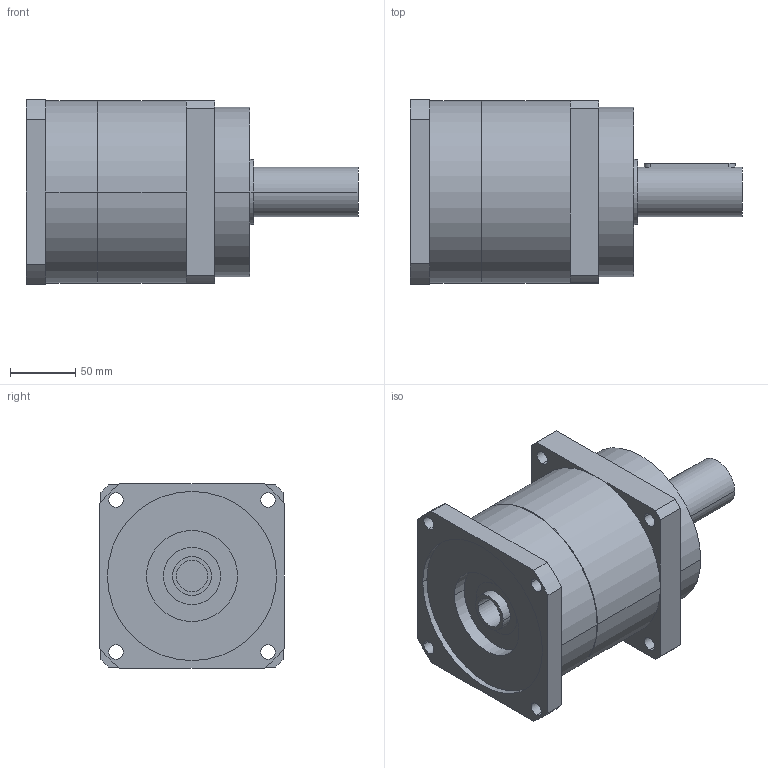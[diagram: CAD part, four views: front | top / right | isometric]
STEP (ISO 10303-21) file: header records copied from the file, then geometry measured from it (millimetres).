
FILE_DESCRIPTION(('CoCreate Modeling STEP Export'),'2;1');
FILE_NAME('GPR150_ig-3-4-5-7_38_B5_24_P05.stp','2014-08-19T16:42:24',(''),(''),'CoCreate Modeling STEP processor for AP214 (Solid Model)','CoCreate Modeling 16.00C 25-Feb-2009 (C) Parametric Technology GmbH','');
FILE_SCHEMA(('AUTOMOTIVE_DESIGN { 1 0 10303 214 1 1 1 1 }'));
Length unit declared in the file: millimetre
Products named in the file (2): GPR150_ig-3-4-5-7_38_B5_24_P05
Assembly tree (1 placements, depth 2):
  GPR150_ig-3-4-5-7_38_B5_24_P05
    GPR150_ig-3-4-5-7_38_B5_24_P05
Bounding box: 255 x 142 x 142 mm (x, y, z)
Volume: 2710924.5 mm3; surface area: 150114.1 mm2
Topology: 1 solids, 1 shells, 81 faces, 220 edges, 150 vertices
Faces by surface type: cylinder 48, plane 27, cone 6
Entity records: 2325 total; most frequent: ORIENTED_EDGE 436, CARTESIAN_POINT 431, DIRECTION 330, EDGE_CURVE 218, VERTEX_POINT 150, AXIS2_PLACEMENT_3D 121, EDGE_LOOP 108, VECTOR 88
